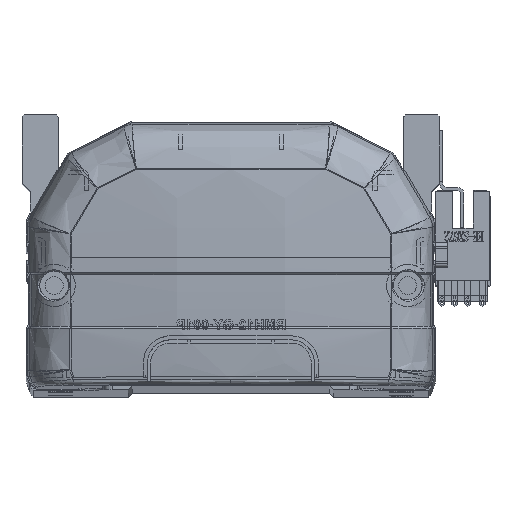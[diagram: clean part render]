
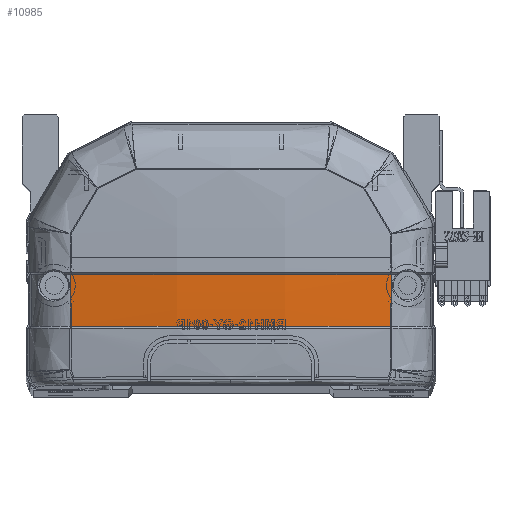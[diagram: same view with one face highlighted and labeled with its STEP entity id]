
A CAD part, top view. The second image highlights one B-rep face of the part: STEP entity #10985.
In plain terms, the highlighted free-form (B-spline) face has degree [3, 3] with [4, 4] control points.
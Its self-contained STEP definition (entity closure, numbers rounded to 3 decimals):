
#908 = CARTESIAN_POINT ( 'NONE',  ( -39.963, 28.706, -6.372 ) ) ;
#1064 = CARTESIAN_POINT ( 'NONE',  ( -39.985, 15.83, -5.879 ) ) ;
#1105 = CARTESIAN_POINT ( 'NONE',  ( -13.373, 28.707, -9.468 ) ) ;
#1888 = ORIENTED_EDGE ( 'NONE', *, *, #9742, .T. ) ;
#5726 = CARTESIAN_POINT ( 'NONE',  ( 13.375, 28.707, -9.468 ) ) ;
#6410 = ORIENTED_EDGE ( 'NONE', *, *, #9699, .F. ) ;
#6808 = ORIENTED_EDGE ( 'NONE', *, *, #22807, .T. ) ;
#9699 = EDGE_CURVE ( 'NONE', #37749, #16720, #36326, .T. ) ;
#9742 = EDGE_CURVE ( 'NONE', #11712, #16720, #50318, .T. ) ;
#10344 = CARTESIAN_POINT ( 'NONE',  ( 39.963, 28.706, -6.372 ) ) ;
#10496 = CARTESIAN_POINT ( 'NONE',  ( -36.679, 15.83, -6.395 ) ) ;
#10985 = ADVANCED_FACE ( 'NONE', ( #16197 ), #39521, .F. ) ;
#11712 = VERTEX_POINT ( 'NONE', #15415 ) ;
#12561 = CARTESIAN_POINT ( 'NONE',  ( 40.461, 28.832, -6.296 ) ) ;
#13038 = CARTESIAN_POINT ( 'NONE',  ( 39.963, 28.706, -6.372 ) ) ;
#14569 = CARTESIAN_POINT ( 'NONE',  ( -39.973, 20.118, -6.142 ) ) ;
#14798 = CARTESIAN_POINT ( 'NONE',  ( -26.748, 28.706, -8.432 ) ) ;
#14959 = CARTESIAN_POINT ( 'NONE',  ( -39.985, 15.83, -5.879 ) ) ;
#15415 = CARTESIAN_POINT ( 'NONE',  ( -39.963, 28.706, -6.372 ) ) ;
#16197 = FACE_OUTER_BOUND ( 'NONE', #29683, .T. ) ;
#16720 = VERTEX_POINT ( 'NONE', #34419 ) ;
#17000 = B_SPLINE_CURVE_WITH_KNOTS ( 'NONE', 3,
 ( #908, #14798, #1105, #5726, #47344, #10344 ),
 .UNSPECIFIED., .F., .F.,
 ( 4, 2, 4 ),
 ( 0., 0.5, 1. ),
 .UNSPECIFIED. ) ;
#17057 = CARTESIAN_POINT ( 'NONE',  ( -13.598, 15.499, -10.032 ) ) ;
#17261 = CARTESIAN_POINT ( 'NONE',  ( -13.598, 24.342, -10.47 ) ) ;
#19328 = EDGE_CURVE ( 'NONE', #11712, #51604, #17000, .T. ) ;
#20402 = CARTESIAN_POINT ( 'NONE',  ( -40.461, 28.832, -6.296 ) ) ;
#21711 = CARTESIAN_POINT ( 'NONE',  ( -13.598, 19.918, -10.302 ) ) ;
#21898 = CARTESIAN_POINT ( 'NONE',  ( 40.461, 20.111, -6.066 ) ) ;
#22807 = EDGE_CURVE ( 'NONE', #37749, #51604, #57352, .T. ) ;
#23268 = CARTESIAN_POINT ( 'NONE',  ( 26.761, 15.83, -7.945 ) ) ;
#26321 = CARTESIAN_POINT ( 'NONE',  ( 13.598, 19.918, -10.302 ) ) ;
#26526 = CARTESIAN_POINT ( 'NONE',  ( -13.598, 28.769, -10.535 ) ) ;
#28276 = CARTESIAN_POINT ( 'NONE',  ( -39.963, 28.706, -6.372 ) ) ;
#29683 = EDGE_LOOP ( 'NONE', ( #6808, #43286, #1888, #6410 ) ) ;
#30508 = CARTESIAN_POINT ( 'NONE',  ( 40.461, 15.757, -5.8 ) ) ;
#31358 = CARTESIAN_POINT ( 'NONE',  ( 39.973, 20.12, -6.142 ) ) ;
#31884 = CARTESIAN_POINT ( 'NONE',  ( 39.985, 15.83, -5.879 ) ) ;
#32297 = CARTESIAN_POINT ( 'NONE',  ( 39.985, 15.83, -5.879 ) ) ;
#32695 = CARTESIAN_POINT ( 'NONE',  ( -23.389, 15.83, -7.947 ) ) ;
#34419 = CARTESIAN_POINT ( 'NONE',  ( -39.985, 15.83, -5.879 ) ) ;
#36326 = B_SPLINE_CURVE_WITH_KNOTS ( 'NONE', 3,
 ( #32297, #23268, #55027, #37989, #42640, #32695, #37393, #47506, #10496, #14959 ),
 .UNSPECIFIED., .F., .F.,
 ( 4, 2, 2, 2, 4 ),
 ( 0., 0.04, 0.06, 0.07, 0.08 ),
 .UNSPECIFIED. ) ;
#37393 = CARTESIAN_POINT ( 'NONE',  ( -26.721, 15.83, -7.624 ) ) ;
#37749 = VERTEX_POINT ( 'NONE', #31884 ) ;
#37989 = CARTESIAN_POINT ( 'NONE',  ( -6.692, 15.83, -8.984 ) ) ;
#39521 =( BOUNDED_SURFACE ( )  B_SPLINE_SURFACE ( 3, 3, ( 
 ( #30508, #21898, #40267, #12561 ),
 ( #44925, #26321, #40062, #44720 ),
 ( #17057, #21711, #17261, #26526 ),
 ( #58884, #50003, #57029, #20402 ) ),
 .UNSPECIFIED., .F., .F., .F. ) 
 B_SPLINE_SURFACE_WITH_KNOTS ( ( 4, 4 ),
 ( 4, 4 ),
 ( 0., 1. ),
 ( 0., 1. ),
 .UNSPECIFIED. ) 
 GEOMETRIC_REPRESENTATION_ITEM ( )  RATIONAL_B_SPLINE_SURFACE ( (
 ( 1., 1., 1., 1.),
 ( 0.992, 0.992, 0.992, 0.992),
 ( 0.992, 0.992, 0.992, 0.992),
 ( 1., 1., 1., 1.) ) ) 
 REPRESENTATION_ITEM ( '' )  SURFACE ( )  );
#40062 = CARTESIAN_POINT ( 'NONE',  ( 13.598, 24.342, -10.47 ) ) ;
#40267 = CARTESIAN_POINT ( 'NONE',  ( 40.461, 24.47, -6.231 ) ) ;
#40333 = CARTESIAN_POINT ( 'NONE',  ( 39.985, 15.83, -5.879 ) ) ;
#41255 = CARTESIAN_POINT ( 'NONE',  ( 39.963, 28.706, -6.372 ) ) ;
#42640 = CARTESIAN_POINT ( 'NONE',  ( -13.384, 15.83, -8.724 ) ) ;
#43286 = ORIENTED_EDGE ( 'NONE', *, *, #19328, .F. ) ;
#44720 = CARTESIAN_POINT ( 'NONE',  ( 13.598, 28.769, -10.535 ) ) ;
#44925 = CARTESIAN_POINT ( 'NONE',  ( 13.598, 15.499, -10.032 ) ) ;
#47310 = CARTESIAN_POINT ( 'NONE',  ( -39.966, 24.412, -6.306 ) ) ;
#47344 = CARTESIAN_POINT ( 'NONE',  ( 26.749, 28.706, -8.432 ) ) ;
#47506 = CARTESIAN_POINT ( 'NONE',  ( -33.365, 15.83, -6.848 ) ) ;
#50003 = CARTESIAN_POINT ( 'NONE',  ( -40.461, 20.111, -6.066 ) ) ;
#50318 = B_SPLINE_CURVE_WITH_KNOTS ( 'NONE', 3,
 ( #28276, #47310, #14569, #1064 ),
 .UNSPECIFIED., .F., .F.,
 ( 4, 4 ),
 ( 0., 1. ),
 .UNSPECIFIED. ) ;
#51604 = VERTEX_POINT ( 'NONE', #41255 ) ;
#54119 = CARTESIAN_POINT ( 'NONE',  ( 39.966, 24.413, -6.306 ) ) ;
#55027 = CARTESIAN_POINT ( 'NONE',  ( 13.38, 15.83, -8.984 ) ) ;
#57029 = CARTESIAN_POINT ( 'NONE',  ( -40.461, 24.47, -6.231 ) ) ;
#57352 = B_SPLINE_CURVE_WITH_KNOTS ( 'NONE', 3,
 ( #40333, #31358, #54119, #13038 ),
 .UNSPECIFIED., .F., .F.,
 ( 4, 4 ),
 ( 0., 1. ),
 .UNSPECIFIED. ) ;
#58884 = CARTESIAN_POINT ( 'NONE',  ( -40.461, 15.757, -5.8 ) ) ;
